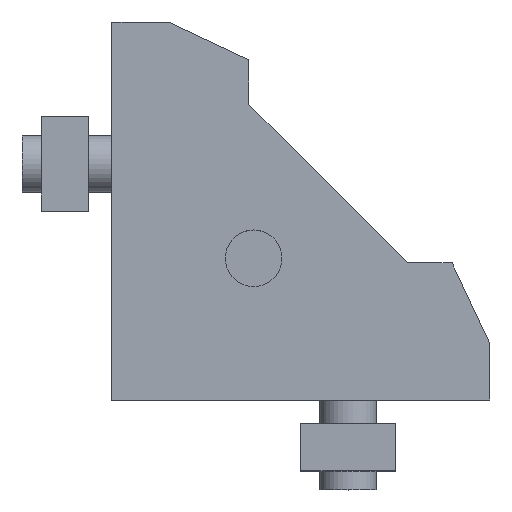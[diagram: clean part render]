
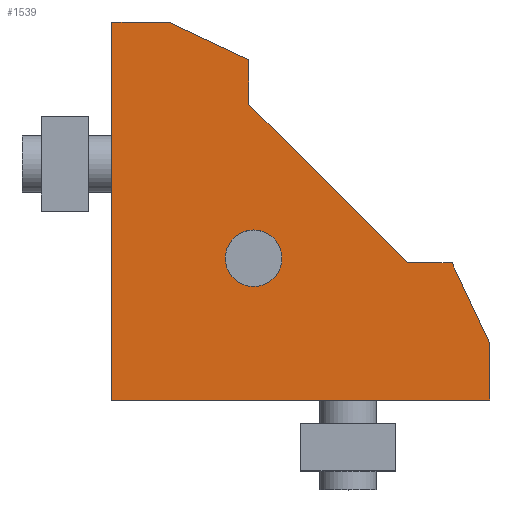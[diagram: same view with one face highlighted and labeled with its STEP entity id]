
A CAD part, top view. The second image highlights one B-rep face of the part: STEP entity #1539.
In plain terms, the highlighted planar face has unit normal (0, 0, 1).
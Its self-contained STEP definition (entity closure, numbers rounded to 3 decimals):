
#1095=CARTESIAN_POINT('',(18.0,15.0,10.0));
#1096=VERTEX_POINT('',#1095);
#1097=CARTESIAN_POINT('',(15.0,15.0,10.0));
#1098=DIRECTION('',(0.0,0.0,-1.0));
#1099=DIRECTION('',(-1.0,0.0,0.0));
#1100=AXIS2_PLACEMENT_3D('',#1097,#1098,#1099);
#1101=CIRCLE('',#1100,3.);
#1102=EDGE_CURVE('',#1096,#1096,#1101,.T.);
#1312=CARTESIAN_POINT('',(0.,40.0,10.0));
#1313=VERTEX_POINT('',#1312);
#1320=CARTESIAN_POINT('',(6.,40.0,10.0));
#1321=VERTEX_POINT('',#1320);
#1322=CARTESIAN_POINT('',(6.,40.0,10.0));
#1323=DIRECTION('',(-1.0,0.0,0.0));
#1324=VECTOR('',#1323,6.);
#1325=LINE('',#1322,#1324);
#1326=EDGE_CURVE('',#1321,#1313,#1325,.T.);
#1351=CARTESIAN_POINT('',(14.5,36.0,10.0));
#1352=VERTEX_POINT('',#1351);
#1353=CARTESIAN_POINT('',(14.5,36.0,10.0));
#1354=DIRECTION('',(-0.905,0.426,0.0));
#1355=VECTOR('',#1354,9.394);
#1356=LINE('',#1353,#1355);
#1357=EDGE_CURVE('',#1352,#1321,#1356,.T.);
#1382=CARTESIAN_POINT('',(14.5,31.3,10.0));
#1383=VERTEX_POINT('',#1382);
#1384=CARTESIAN_POINT('',(14.5,31.3,10.0));
#1385=DIRECTION('',(0.0,1.0,0.0));
#1386=VECTOR('',#1385,4.7);
#1387=LINE('',#1384,#1386);
#1388=EDGE_CURVE('',#1383,#1352,#1387,.T.);
#1413=CARTESIAN_POINT('',(31.3,14.5,10.0));
#1414=VERTEX_POINT('',#1413);
#1415=CARTESIAN_POINT('',(31.3,14.5,10.0));
#1416=DIRECTION('',(-0.707,0.707,0.0));
#1417=VECTOR('',#1416,23.759);
#1418=LINE('',#1415,#1417);
#1419=EDGE_CURVE('',#1414,#1383,#1418,.T.);
#1444=CARTESIAN_POINT('',(36.0,14.5,10.0));
#1445=VERTEX_POINT('',#1444);
#1446=CARTESIAN_POINT('',(36.0,14.5,10.0));
#1447=DIRECTION('',(-1.0,0.0,0.0));
#1448=VECTOR('',#1447,4.7);
#1449=LINE('',#1446,#1448);
#1450=EDGE_CURVE('',#1445,#1414,#1449,.T.);
#1475=CARTESIAN_POINT('',(40.0,6.,10.0));
#1476=VERTEX_POINT('',#1475);
#1477=CARTESIAN_POINT('',(40.0,6.,10.0));
#1478=DIRECTION('',(-0.426,0.905,0.0));
#1479=VECTOR('',#1478,9.394);
#1480=LINE('',#1477,#1479);
#1481=EDGE_CURVE('',#1476,#1445,#1480,.T.);
#1501=CARTESIAN_POINT('',(-4.0,-4.0,10.0));
#1502=DIRECTION('',(0.0,0.0,1.0));
#1503=DIRECTION('',(1.0,0.0,0.0));
#1504=AXIS2_PLACEMENT_3D('',#1501,#1502,#1503);
#1505=PLANE('',#1504);
#1506=ORIENTED_EDGE('',*,*,#1357,.T.);
#1507=ORIENTED_EDGE('',*,*,#1326,.T.);
#1508=CARTESIAN_POINT('',(0.,0.,10.0));
#1509=VERTEX_POINT('',#1508);
#1510=CARTESIAN_POINT('',(0.,0.,10.0));
#1511=DIRECTION('',(0.0,1.0,0.0));
#1512=VECTOR('',#1511,40.0);
#1513=LINE('',#1510,#1512);
#1514=EDGE_CURVE('',#1509,#1313,#1513,.T.);
#1515=ORIENTED_EDGE('',*,*,#1514,.F.);
#1516=CARTESIAN_POINT('',(40.0,0.,10.0));
#1517=VERTEX_POINT('',#1516);
#1518=CARTESIAN_POINT('',(40.0,0.,10.0));
#1519=DIRECTION('',(-1.0,0.0,0.0));
#1520=VECTOR('',#1519,40.0);
#1521=LINE('',#1518,#1520);
#1522=EDGE_CURVE('',#1517,#1509,#1521,.T.);
#1523=ORIENTED_EDGE('',*,*,#1522,.F.);
#1524=CARTESIAN_POINT('',(40.0,6.,10.0));
#1525=DIRECTION('',(0.0,-1.0,0.0));
#1526=VECTOR('',#1525,6.);
#1527=LINE('',#1524,#1526);
#1528=EDGE_CURVE('',#1476,#1517,#1527,.T.);
#1529=ORIENTED_EDGE('',*,*,#1528,.F.);
#1530=ORIENTED_EDGE('',*,*,#1481,.T.);
#1531=ORIENTED_EDGE('',*,*,#1450,.T.);
#1532=ORIENTED_EDGE('',*,*,#1419,.T.);
#1533=ORIENTED_EDGE('',*,*,#1388,.T.);
#1534=EDGE_LOOP('',(#1506,#1507,#1515,#1523,#1529,#1530,#1531,#1532,#1533));
#1535=FACE_OUTER_BOUND('',#1534,.T.);
#1536=ORIENTED_EDGE('',*,*,#1102,.T.);
#1537=EDGE_LOOP('',(#1536));
#1538=FACE_BOUND('',#1537,.T.);
#1539=ADVANCED_FACE('',(#1535,#1538),#1505,.T.);
